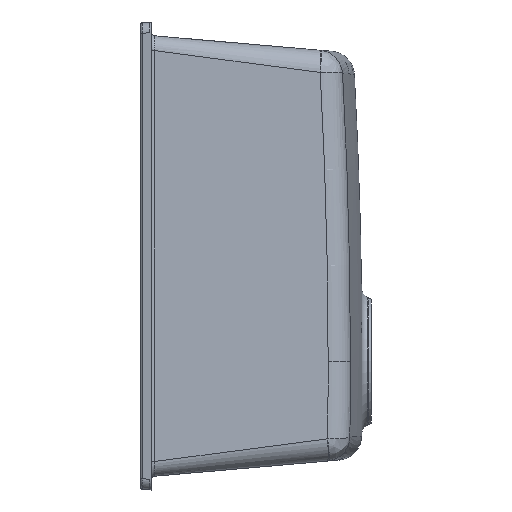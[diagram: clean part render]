
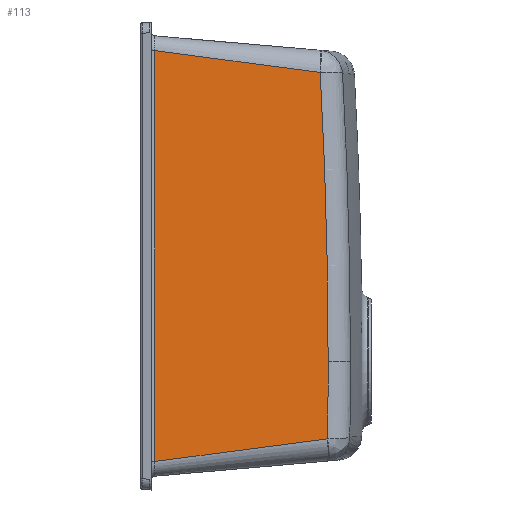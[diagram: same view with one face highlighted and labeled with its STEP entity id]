
A CAD part, left-side view. The second image highlights one B-rep face of the part: STEP entity #113.
In plain terms, the highlighted planar face has unit normal (-0.996, -0.087, 0).
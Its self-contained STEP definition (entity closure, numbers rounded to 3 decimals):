
#4 = CARTESIAN_POINT ( 'NONE',  ( 42.189, -175.507, -407.025 ) ) ;
#110 = CARTESIAN_POINT ( 'NONE',  ( 41.586, -168.609, -62.641 ) ) ;
#113 = ADVANCED_FACE ( 'NONE', ( #4690 ), #4159, .T. ) ;
#142 = CARTESIAN_POINT ( 'NONE',  ( 41.585, -168.601, -62.64 ) ) ;
#663 = CARTESIAN_POINT ( 'NONE',  ( 42.192, -175.542, -407.02 ) ) ;
#696 = EDGE_CURVE ( 'NONE', #2476, #4180, #8730, .T. ) ;
#716 = AXIS2_PLACEMENT_3D ( 'NONE', #5182, #5838, #3135 ) ;
#924 = EDGE_CURVE ( 'NONE', #1555, #2476, #8203, .T. ) ;
#949 = CARTESIAN_POINT ( 'NONE',  ( 27.985, -13.151, -428.32 ) ) ;
#1165 = CARTESIAN_POINT ( 'NONE',  ( 42.183, -175.437, -407.032 ) ) ;
#1426 = CARTESIAN_POINT ( 'NONE',  ( 27.985, -13.151, -41.986 ) ) ;
#1503 = EDGE_CURVE ( 'NONE', #5747, #7680, #3073, .T. ) ;
#1555 = VERTEX_POINT ( 'NONE', #3699 ) ;
#1572 = ORIENTED_EDGE ( 'NONE', *, *, #1823, .F. ) ;
#1583 = AXIS2_PLACEMENT_3D ( 'NONE', #1973, #5354, #2641 ) ;
#1823 = EDGE_CURVE ( 'NONE', #4180, #2427, #5659, .T. ) ;
#1973 = CARTESIAN_POINT ( 'NONE',  ( -387.125, 4731.573, -334.07 ) ) ;
#2101 = CARTESIAN_POINT ( 'NONE',  ( 41.587, -168.625, -62.642 ) ) ;
#2170 = CARTESIAN_POINT ( 'NONE',  ( 41.585, -168.601, -62.64 ) ) ;
#2330 = ORIENTED_EDGE ( 'NONE', *, *, #1503, .F. ) ;
#2427 = VERTEX_POINT ( 'NONE', #1165 ) ;
#2476 = VERTEX_POINT ( 'NONE', #5477 ) ;
#2555 = ORIENTED_EDGE ( 'NONE', *, *, #6675, .F. ) ;
#2641 = DIRECTION ( 'NONE',  ( 0.087, -0.996, 0. ) ) ;
#3069 = B_SPLINE_CURVE_WITH_KNOTS ( 'NONE', 3,
 ( #2170, #110, #4882, #2101 ),
 .UNSPECIFIED., .F., .F.,
 ( 4, 4 ),
 ( 0., 0. ),
 .UNSPECIFIED. ) ;
#3073 = B_SPLINE_CURVE_WITH_KNOTS ( 'NONE', 3,
 ( #1426, #6264, #7635, #142 ),
 .UNSPECIFIED., .F., .F.,
 ( 4, 4 ),
 ( 0.348, 1. ),
 .UNSPECIFIED. ) ;
#3134 = VECTOR ( 'NONE', #6559, 1000. ) ;
#3135 = DIRECTION ( 'NONE',  ( 0.087, -0.996, 0. ) ) ;
#3163 = EDGE_LOOP ( 'NONE', ( #2330, #6595, #2555, #1572, #8521, #7893, #5977 ) ) ;
#3699 = CARTESIAN_POINT ( 'NONE',  ( 41.587, -168.625, -62.642 ) ) ;
#4021 = CARTESIAN_POINT ( 'NONE',  ( 27.985, -13.151, -41.986 ) ) ;
#4023 = DIRECTION ( 'NONE',  ( 0.996, 0.087, 0. ) ) ;
#4144 = CARTESIAN_POINT ( 'NONE',  ( 42.183, -175.437, -407.032 ) ) ;
#4159 = PLANE ( 'NONE',  #716 ) ;
#4180 = VERTEX_POINT ( 'NONE', #4964 ) ;
#4545 = EDGE_CURVE ( 'NONE', #7680, #1555, #3069, .T. ) ;
#4690 = FACE_OUTER_BOUND ( 'NONE', #3163, .T. ) ;
#4882 = CARTESIAN_POINT ( 'NONE',  ( 41.587, -168.617, -62.642 ) ) ;
#4964 = CARTESIAN_POINT ( 'NONE',  ( 42.192, -175.542, -407.02 ) ) ;
#5064 = CARTESIAN_POINT ( 'NONE',  ( 37.433, -121.138, -411.782 ) ) ;
#5182 = CARTESIAN_POINT ( 'NONE',  ( 26.895, -0.697, -435.27 ) ) ;
#5267 = LINE ( 'NONE', #6590, #3134 ) ;
#5354 = DIRECTION ( 'NONE',  ( 0.996, 0.087, 0. ) ) ;
#5477 = CARTESIAN_POINT ( 'NONE',  ( 42.239, -176.08, -334.07 ) ) ;
#5504 = CARTESIAN_POINT ( 'NONE',  ( 42.186, -175.472, -407.029 ) ) ;
#5659 = B_SPLINE_CURVE_WITH_KNOTS ( 'NONE', 3,
 ( #663, #4, #5504, #4144 ),
 .UNSPECIFIED., .F., .F.,
 ( 4, 4 ),
 ( 0., 0. ),
 .UNSPECIFIED. ) ;
#5702 = CARTESIAN_POINT ( 'NONE',  ( 32.708, -67.134, -419.926 ) ) ;
#5747 = VERTEX_POINT ( 'NONE', #4021 ) ;
#5838 = DIRECTION ( 'NONE',  ( -0.996, -0.087, 0. ) ) ;
#5872 = CARTESIAN_POINT ( 'NONE',  ( 41.585, -168.601, -62.64 ) ) ;
#5977 = ORIENTED_EDGE ( 'NONE', *, *, #4545, .F. ) ;
#6264 = CARTESIAN_POINT ( 'NONE',  ( 32.509, -64.855, -50.167 ) ) ;
#6559 = DIRECTION ( 'NONE',  ( 0., 0., -1. ) ) ;
#6590 = CARTESIAN_POINT ( 'NONE',  ( 27.985, -13.151, -428.888 ) ) ;
#6595 = ORIENTED_EDGE ( 'NONE', *, *, #8231, .T. ) ;
#6675 = EDGE_CURVE ( 'NONE', #2427, #8265, #7485, .T. ) ;
#7485 = B_SPLINE_CURVE_WITH_KNOTS ( 'NONE', 3,
 ( #8407, #5064, #5702, #949 ),
 .UNSPECIFIED., .F., .F.,
 ( 4, 4 ),
 ( 0., 0.654 ),
 .UNSPECIFIED. ) ;
#7635 = CARTESIAN_POINT ( 'NONE',  ( 37.034, -116.582, -58.089 ) ) ;
#7680 = VERTEX_POINT ( 'NONE', #5872 ) ;
#7893 = ORIENTED_EDGE ( 'NONE', *, *, #924, .F. ) ;
#8092 = CARTESIAN_POINT ( 'NONE',  ( -387.125, 4731.573, -334.07 ) ) ;
#8203 = CIRCLE ( 'NONE', #1583, 4926.399 ) ;
#8231 = EDGE_CURVE ( 'NONE', #5747, #8265, #5267, .T. ) ;
#8265 = VERTEX_POINT ( 'NONE', #8592 ) ;
#8329 = AXIS2_PLACEMENT_3D ( 'NONE', #8092, #4023, #8782 ) ;
#8407 = CARTESIAN_POINT ( 'NONE',  ( 42.183, -175.437, -407.032 ) ) ;
#8521 = ORIENTED_EDGE ( 'NONE', *, *, #696, .F. ) ;
#8592 = CARTESIAN_POINT ( 'NONE',  ( 27.985, -13.151, -428.32 ) ) ;
#8730 = CIRCLE ( 'NONE', #8329, 4926.399 ) ;
#8782 = DIRECTION ( 'NONE',  ( 0.087, -0.996, 0. ) ) ;
